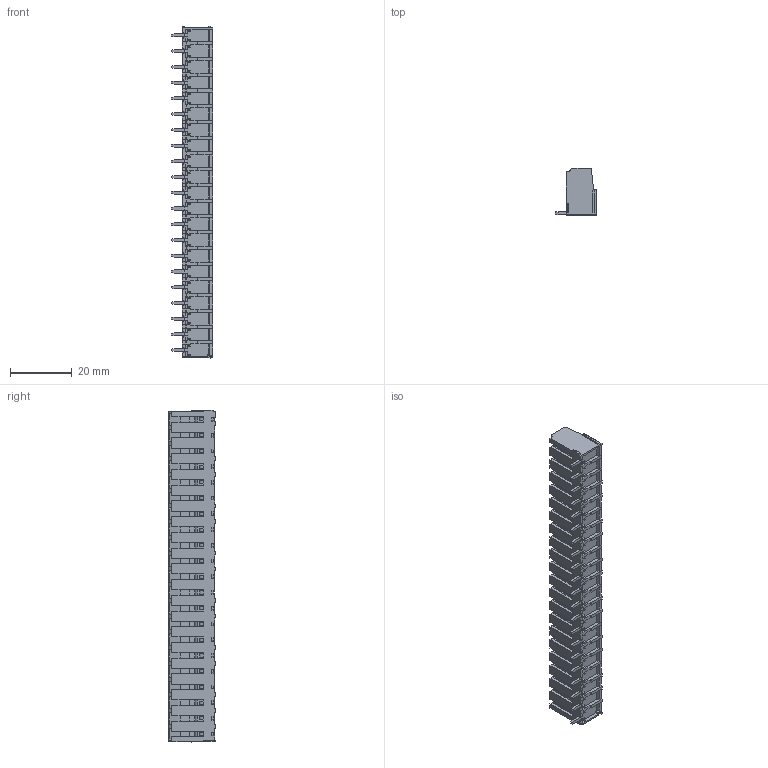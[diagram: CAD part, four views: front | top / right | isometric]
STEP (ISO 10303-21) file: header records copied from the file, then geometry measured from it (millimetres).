
FILE_DESCRIPTION (( 'STEP AP214' ), '1' );
FILE_NAME ('146-A-121-21.STEP', '2008-01-31T06:00:11', ( ' ' ), ( '' ), 'SwSTEP 2.0', 'SolidWorks 2007', '' );
FILE_SCHEMA (( 'AUTOMOTIVE_DESIGN' ));
Length unit declared in the file: millimetre
Products named in the file (1): 146-A-121-21
Bounding box: 13.25 x 15 x 107.18 mm (x, y, z)
Volume: 11130.1 mm3; surface area: 11181.5 mm2
Topology: 1 solids, 1 shells, 2905 faces, 8576 edges, 5569 vertices
Faces by surface type: plane 2398, cylinder 465, cone 42
Entity records: 95814 total; most frequent: CARTESIAN_POINT 17303, ORIENTED_EDGE 17152, DIRECTION 15381, EDGE_CURVE 8576, LINE 7415, VECTOR 7415, VERTEX_POINT 5569, AXIS2_PLACEMENT_3D 3983
